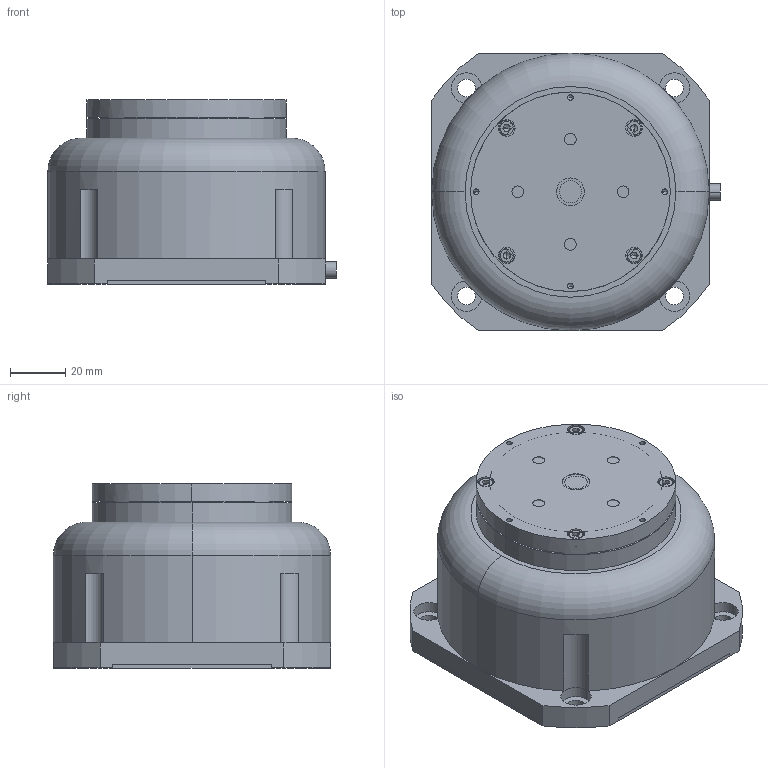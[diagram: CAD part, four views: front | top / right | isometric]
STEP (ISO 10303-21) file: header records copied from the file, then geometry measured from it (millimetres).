
FILE_DESCRIPTION (( 'STEP AP203' ), '1' );
FILE_NAME ('XD301-D1外形三维-22.08.15.STEP', '2022-08-15T05:54:39', ( 'Windows 用户' ), ( '微软中国' ), 'SwSTEP 2.0', 'SolidWorks 2016', '' );
FILE_SCHEMA (( 'CONFIG_CONTROL_DESIGN' ));
Length unit declared in the file: millimetre
Products named in the file (1): XD301-D1外形三维-22.08.15
Bounding box: 104 x 100 x 66.4 mm (x, y, z)
Volume: 510489.9 mm3; surface area: 107897.7 mm2
Topology: 17 solids, 17 shells, 918 faces, 2277 edges, 1426 vertices
Faces by surface type: cylinder 440, plane 350, cone 116, torus 12
Entity records: 27246 total; most frequent: DIRECTION 5099, CARTESIAN_POINT 4620, ORIENTED_EDGE 4434, EDGE_CURVE 2217, AXIS2_PLACEMENT_3D 1965, VERTEX_POINT 1426, VECTOR 1169, LINE 1169
